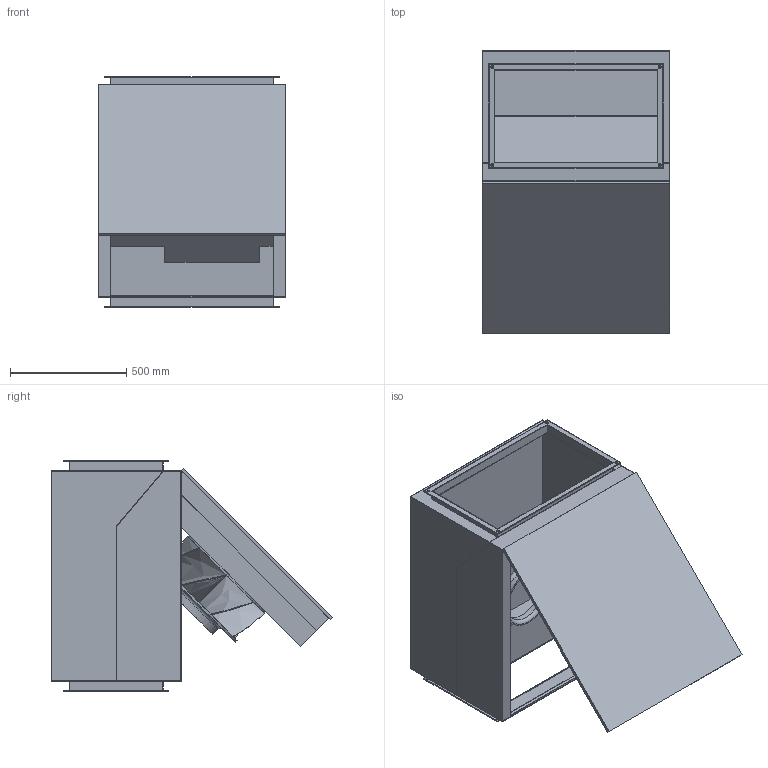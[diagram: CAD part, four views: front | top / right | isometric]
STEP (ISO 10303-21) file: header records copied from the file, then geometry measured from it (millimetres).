
FILE_DESCRIPTION(/* description */ (''),/* implementation_level */ '2;1');
FILE_NAME(/* name */ 'Z:\Output\SKRD EC 450-70-40 A-08178-001.stp',/* time_stamp */ '2017-05-05T17:09:30+02:00',/* author */ ('Engineering1'),/* organization */ (''),/* preprocessor_version */ 'ST-DEVELOPER v16.5',/* originating_system */ 'Autodesk Inventor 2017',/* authorisation */ '');
FILE_SCHEMA (('AUTOMOTIVE_DESIGN { 1 0 10303 214 3 1 1 }'));
Length unit declared in the file: millimetre
Products named in the file (1): SKR-1
Bounding box: 808 x 1213.66 x 994 mm (x, y, z)
Volume: 105196414.8 mm3; surface area: 10493255.4 mm2
Topology: 1 solids, 1 shells, 205 faces, 555 edges, 321 vertices
Faces by surface type: plane 156, bspline 24, cylinder 22, torus 3
Full cylindrical faces by diameter (mm): 9 x8, 13 x8, 233.333 x1, 259.259 x1, 273.333 x1, 279.259 x1, 466.667 x2
Entity records: 6715 total; most frequent: CARTESIAN_POINT 1621, ORIENTED_EDGE 1058, DIRECTION 963, EDGE_CURVE 528, LINE 409, VECTOR 409, VERTEX_POINT 319, EDGE_LOOP 284
